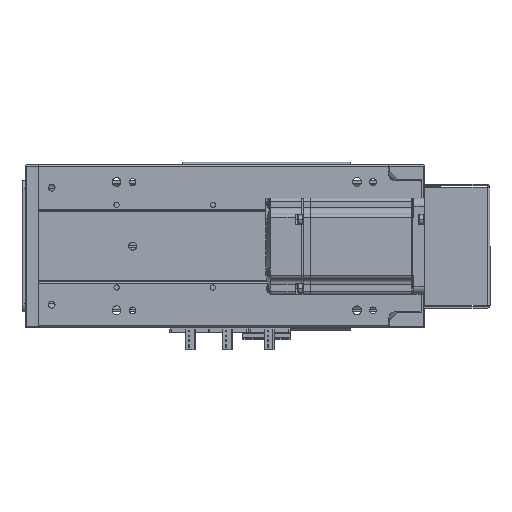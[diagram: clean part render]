
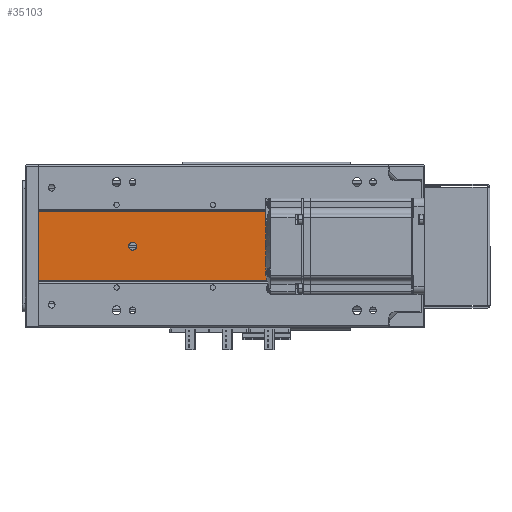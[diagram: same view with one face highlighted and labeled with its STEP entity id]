
A CAD part, front view. The second image highlights one B-rep face of the part: STEP entity #35103.
In plain terms, the highlighted planar face has unit normal (0, -1, 0).
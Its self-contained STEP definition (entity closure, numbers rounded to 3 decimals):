
#436 = PLANE ( 'NONE',  #46456 ) ;
#569 = VECTOR ( 'NONE', #60519, 1000. ) ;
#872 = CARTESIAN_POINT ( 'NONE',  ( 161.989, 89.548, 229.698 ) ) ;
#886 = CARTESIAN_POINT ( 'NONE',  ( 118.817, 89.548, 219.698 ) ) ;
#1304 = CARTESIAN_POINT ( 'NONE',  ( 161.989, 89.548, 239. ) ) ;
#1651 = CIRCLE ( 'NONE', #34840, 2.5 ) ;
#2267 = CARTESIAN_POINT ( 'NONE',  ( 118.817, 89.548, 239. ) ) ;
#2764 = LINE ( 'NONE', #56743, #63985 ) ;
#2965 = DIRECTION ( 'NONE',  ( -1., 0., 0. ) ) ;
#3122 = ORIENTED_EDGE ( 'NONE', *, *, #46895, .T. ) ;
#3345 = ORIENTED_EDGE ( 'NONE', *, *, #63044, .F. ) ;
#4444 = CIRCLE ( 'NONE', #4470, 2.5 ) ;
#4470 = AXIS2_PLACEMENT_3D ( 'NONE', #25008, #39281, #58858 ) ;
#5596 = CIRCLE ( 'NONE', #43335, 4.75 ) ;
#5940 = DIRECTION ( 'NONE',  ( 0., 0., -1. ) ) ;
#6080 = CARTESIAN_POINT ( 'NONE',  ( 165.403, 89.548, 223. ) ) ;
#7082 = EDGE_CURVE ( 'NONE', #9443, #8094, #26986, .T. ) ;
#7380 = ORIENTED_EDGE ( 'NONE', *, *, #26913, .T. ) ;
#7838 = VERTEX_POINT ( 'NONE', #13103 ) ;
#8077 = DIRECTION ( 'NONE',  ( 0., 1., 0. ) ) ;
#8094 = VERTEX_POINT ( 'NONE', #21512 ) ;
#9443 = VERTEX_POINT ( 'NONE', #40182 ) ;
#9789 = DIRECTION ( 'NONE',  ( 1., 0., 0. ) ) ;
#9844 = EDGE_CURVE ( 'NONE', #46813, #30095, #46009, .T. ) ;
#10562 = FACE_BOUND ( 'NONE', #61563, .T. ) ;
#10785 = EDGE_CURVE ( 'NONE', #12608, #44453, #5596, .T. ) ;
#10928 = VECTOR ( 'NONE', #35757, 1000. ) ;
#11177 = VERTEX_POINT ( 'NONE', #54255 ) ;
#11265 = ORIENTED_EDGE ( 'NONE', *, *, #64107, .F. ) ;
#12608 = VERTEX_POINT ( 'NONE', #49524 ) ;
#13103 = CARTESIAN_POINT ( 'NONE',  ( 142.903, 89.548, 59. ) ) ;
#13239 = ORIENTED_EDGE ( 'NONE', *, *, #45483, .T. ) ;
#14261 = CARTESIAN_POINT ( 'NONE',  ( 161.989, 89.548, 239. ) ) ;
#14265 = VECTOR ( 'NONE', #46856, 1000. ) ;
#14359 = CARTESIAN_POINT ( 'NONE',  ( 118.817, 89.548, 226.302 ) ) ;
#15494 = CIRCLE ( 'NONE', #35090, 4.75 ) ;
#15790 = DIRECTION ( 'NONE',  ( 1., 0., 0. ) ) ;
#15862 = ORIENTED_EDGE ( 'NONE', *, *, #50143, .T. ) ;
#17105 = CIRCLE ( 'NONE', #18277, 4.75 ) ;
#17328 = ORIENTED_EDGE ( 'NONE', *, *, #52734, .F. ) ;
#17620 = EDGE_CURVE ( 'NONE', #9443, #12608, #47867, .T. ) ;
#18228 = VERTEX_POINT ( 'NONE', #41308 ) ;
#18277 = AXIS2_PLACEMENT_3D ( 'NONE', #33022, #27873, #43409 ) ;
#21065 = VERTEX_POINT ( 'NONE', #886 ) ;
#21177 = ORIENTED_EDGE ( 'NONE', *, *, #26914, .F. ) ;
#21512 = CARTESIAN_POINT ( 'NONE',  ( 161.989, 89.548, 239. ) ) ;
#22427 = EDGE_CURVE ( 'NONE', #44453, #51990, #47058, .T. ) ;
#22817 = CARTESIAN_POINT ( 'NONE',  ( 161.989, 89.548, 0. ) ) ;
#24326 = ORIENTED_EDGE ( 'NONE', *, *, #7082, .F. ) ;
#24690 = CARTESIAN_POINT ( 'NONE',  ( 142.903, 89.548, 209. ) ) ;
#25008 = CARTESIAN_POINT ( 'NONE',  ( 140.403, 89.548, 209. ) ) ;
#25854 = DIRECTION ( 'NONE',  ( 0., 1., 0. ) ) ;
#25990 = ORIENTED_EDGE ( 'NONE', *, *, #22427, .T. ) ;
#26127 = AXIS2_PLACEMENT_3D ( 'NONE', #38980, #39205, #48795 ) ;
#26913 = EDGE_CURVE ( 'NONE', #51990, #21065, #17105, .T. ) ;
#26914 = EDGE_CURVE ( 'NONE', #57867, #7838, #1651, .T. ) ;
#26935 = FACE_BOUND ( 'NONE', #30907, .T. ) ;
#26986 = LINE ( 'NONE', #14261, #40842 ) ;
#27107 = EDGE_LOOP ( 'NONE', ( #17328, #15862, #45250, #24326, #44943, #63927, #25990, #7380, #3122, #13239, #61839, #38179 ) ) ;
#27873 = DIRECTION ( 'NONE',  ( 0., 1., 0. ) ) ;
#27888 = CARTESIAN_POINT ( 'NONE',  ( 165.403, 89.548, 233. ) ) ;
#28369 = AXIS2_PLACEMENT_3D ( 'NONE', #6080, #25854, #45306 ) ;
#29232 = CIRCLE ( 'NONE', #26127, 2.5 ) ;
#29884 = VECTOR ( 'NONE', #60173, 1000. ) ;
#30095 = VERTEX_POINT ( 'NONE', #57664 ) ;
#30907 = EDGE_LOOP ( 'NONE', ( #50991, #3345 ) ) ;
#32036 = EDGE_CURVE ( 'NONE', #46813, #18228, #41166, .T. ) ;
#32235 = LINE ( 'NONE', #50189, #29884 ) ;
#32408 = VERTEX_POINT ( 'NONE', #58533 ) ;
#32765 = DIRECTION ( 'NONE',  ( 1., 0., 0. ) ) ;
#32802 = DIRECTION ( 'NONE',  ( 0., -1., 0. ) ) ;
#33022 = CARTESIAN_POINT ( 'NONE',  ( 115.403, 89.548, 223. ) ) ;
#34840 = AXIS2_PLACEMENT_3D ( 'NONE', #58387, #32802, #43200 ) ;
#35090 = AXIS2_PLACEMENT_3D ( 'NONE', #27888, #8077, #2965 ) ;
#35103 = ADVANCED_FACE ( 'NONE', ( #26935, #10562, #61868 ), #436, .F. ) ;
#35131 = CARTESIAN_POINT ( 'NONE',  ( 140.403, 89.548, 59. ) ) ;
#35757 = DIRECTION ( 'NONE',  ( 0., 0., -1. ) ) ;
#35901 = DIRECTION ( 'NONE',  ( 0., 1., 0. ) ) ;
#37177 = EDGE_CURVE ( 'NONE', #8094, #11177, #2764, .T. ) ;
#38179 = ORIENTED_EDGE ( 'NONE', *, *, #9844, .T. ) ;
#38980 = CARTESIAN_POINT ( 'NONE',  ( 140.403, 89.548, 209. ) ) ;
#39205 = DIRECTION ( 'NONE',  ( 0., -1., 0. ) ) ;
#39281 = DIRECTION ( 'NONE',  ( 0., -1., 0. ) ) ;
#40152 = CIRCLE ( 'NONE', #62829, 2.5 ) ;
#40182 = CARTESIAN_POINT ( 'NONE',  ( 118.817, 89.548, 239. ) ) ;
#40842 = VECTOR ( 'NONE', #15790, 1000. ) ;
#41166 = LINE ( 'NONE', #50559, #10928 ) ;
#41211 = DIRECTION ( 'NONE',  ( 0., 1., 0. ) ) ;
#41308 = CARTESIAN_POINT ( 'NONE',  ( 161.989, 89.548, 0. ) ) ;
#41418 = CARTESIAN_POINT ( 'NONE',  ( 115.403, 89.548, 233. ) ) ;
#41854 = EDGE_CURVE ( 'NONE', #53859, #32408, #4444, .T. ) ;
#42418 = DIRECTION ( 'NONE',  ( 0., 0., -1. ) ) ;
#43200 = DIRECTION ( 'NONE',  ( 1., 0., 0. ) ) ;
#43335 = AXIS2_PLACEMENT_3D ( 'NONE', #41418, #41211, #51675 ) ;
#43409 = DIRECTION ( 'NONE',  ( -1., 0., 0. ) ) ;
#43749 = LINE ( 'NONE', #2267, #14265 ) ;
#44453 = VERTEX_POINT ( 'NONE', #58496 ) ;
#44943 = ORIENTED_EDGE ( 'NONE', *, *, #17620, .T. ) ;
#45028 = DIRECTION ( 'NONE',  ( -1., 0., 0. ) ) ;
#45250 = ORIENTED_EDGE ( 'NONE', *, *, #37177, .F. ) ;
#45306 = DIRECTION ( 'NONE',  ( -1., 0., 0. ) ) ;
#45483 = EDGE_CURVE ( 'NONE', #47443, #18228, #63396, .T. ) ;
#45485 = CARTESIAN_POINT ( 'NONE',  ( 118.817, 89.548, 239. ) ) ;
#46009 = CIRCLE ( 'NONE', #28369, 4.75 ) ;
#46456 = AXIS2_PLACEMENT_3D ( 'NONE', #1304, #35901, #45028 ) ;
#46804 = CARTESIAN_POINT ( 'NONE',  ( 118.817, 89.548, 0. ) ) ;
#46813 = VERTEX_POINT ( 'NONE', #60807 ) ;
#46856 = DIRECTION ( 'NONE',  ( 0., 0., -1. ) ) ;
#46895 = EDGE_CURVE ( 'NONE', #21065, #47443, #43749, .T. ) ;
#47058 = LINE ( 'NONE', #54319, #51788 ) ;
#47060 = VECTOR ( 'NONE', #32765, 1000. ) ;
#47443 = VERTEX_POINT ( 'NONE', #46804 ) ;
#47867 = LINE ( 'NONE', #45485, #569 ) ;
#48795 = DIRECTION ( 'NONE',  ( 1., 0., 0. ) ) ;
#49524 = CARTESIAN_POINT ( 'NONE',  ( 118.817, 89.548, 236.302 ) ) ;
#50143 = EDGE_CURVE ( 'NONE', #62079, #11177, #15494, .T. ) ;
#50189 = CARTESIAN_POINT ( 'NONE',  ( 161.989, 89.548, 239. ) ) ;
#50559 = CARTESIAN_POINT ( 'NONE',  ( 161.989, 89.548, 239. ) ) ;
#50991 = ORIENTED_EDGE ( 'NONE', *, *, #41854, .F. ) ;
#51675 = DIRECTION ( 'NONE',  ( -1., 0., 0. ) ) ;
#51788 = VECTOR ( 'NONE', #5940, 1000. ) ;
#51990 = VERTEX_POINT ( 'NONE', #14359 ) ;
#52734 = EDGE_CURVE ( 'NONE', #62079, #30095, #32235, .T. ) ;
#53859 = VERTEX_POINT ( 'NONE', #24690 ) ;
#54255 = CARTESIAN_POINT ( 'NONE',  ( 161.989, 89.548, 236.302 ) ) ;
#54319 = CARTESIAN_POINT ( 'NONE',  ( 118.817, 89.548, 239. ) ) ;
#54492 = DIRECTION ( 'NONE',  ( 0., -1., 0. ) ) ;
#56743 = CARTESIAN_POINT ( 'NONE',  ( 161.989, 89.548, 239. ) ) ;
#57664 = CARTESIAN_POINT ( 'NONE',  ( 161.989, 89.548, 226.302 ) ) ;
#57867 = VERTEX_POINT ( 'NONE', #63175 ) ;
#58387 = CARTESIAN_POINT ( 'NONE',  ( 140.403, 89.548, 59. ) ) ;
#58496 = CARTESIAN_POINT ( 'NONE',  ( 118.817, 89.548, 229.698 ) ) ;
#58533 = CARTESIAN_POINT ( 'NONE',  ( 137.903, 89.548, 209. ) ) ;
#58858 = DIRECTION ( 'NONE',  ( 1., 0., 0. ) ) ;
#60173 = DIRECTION ( 'NONE',  ( 0., 0., -1. ) ) ;
#60519 = DIRECTION ( 'NONE',  ( 0., 0., -1. ) ) ;
#60807 = CARTESIAN_POINT ( 'NONE',  ( 161.989, 89.548, 219.698 ) ) ;
#61563 = EDGE_LOOP ( 'NONE', ( #11265, #21177 ) ) ;
#61839 = ORIENTED_EDGE ( 'NONE', *, *, #32036, .F. ) ;
#61868 = FACE_OUTER_BOUND ( 'NONE', #27107, .T. ) ;
#62079 = VERTEX_POINT ( 'NONE', #872 ) ;
#62829 = AXIS2_PLACEMENT_3D ( 'NONE', #35131, #54492, #9789 ) ;
#63044 = EDGE_CURVE ( 'NONE', #32408, #53859, #29232, .T. ) ;
#63175 = CARTESIAN_POINT ( 'NONE',  ( 137.903, 89.548, 59. ) ) ;
#63396 = LINE ( 'NONE', #22817, #47060 ) ;
#63927 = ORIENTED_EDGE ( 'NONE', *, *, #10785, .T. ) ;
#63985 = VECTOR ( 'NONE', #42418, 1000. ) ;
#64107 = EDGE_CURVE ( 'NONE', #7838, #57867, #40152, .T. ) ;
